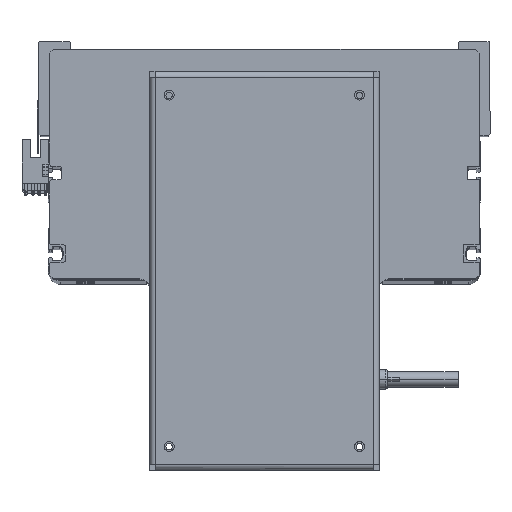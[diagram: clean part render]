
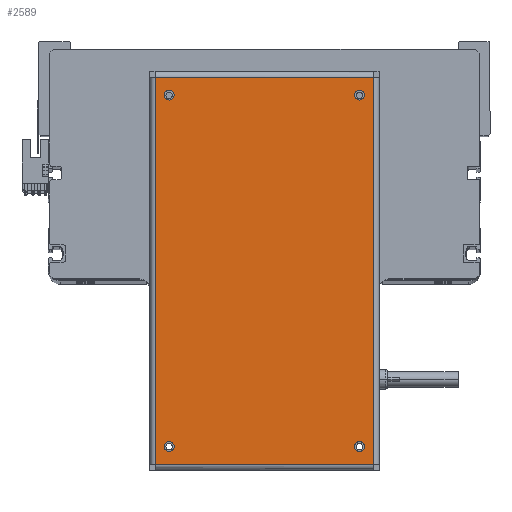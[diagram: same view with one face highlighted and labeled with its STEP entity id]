
A CAD part, top view. The second image highlights one B-rep face of the part: STEP entity #2589.
In plain terms, the highlighted planar face has unit normal (0, 0, 1).
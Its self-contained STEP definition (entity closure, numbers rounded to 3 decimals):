
#248 = VERTEX_POINT ( 'NONE', #31755 ) ;
#475 = AXIS2_PLACEMENT_3D ( 'NONE', #38841, #23039, #32424 ) ;
#528 = VECTOR ( 'NONE', #29941, 1000. ) ;
#704 = FACE_BOUND ( 'NONE', #15839, .T. ) ;
#811 = CARTESIAN_POINT ( 'NONE',  ( 87.05, -48.5, 0. ) ) ;
#1048 = CARTESIAN_POINT ( 'NONE',  ( -92.05, 48.5, 0. ) ) ;
#1131 = CARTESIAN_POINT ( 'NONE',  ( 98.65, 55.6, 0. ) ) ;
#2257 = DIRECTION ( 'NONE',  ( 1., 0., 0. ) ) ;
#2276 = ORIENTED_EDGE ( 'NONE', *, *, #26722, .F. ) ;
#2589 = ADVANCED_FACE ( 'NONE', ( #7107, #39088, #704, #39548, #38088 ), #16355, .F. ) ;
#2787 = ORIENTED_EDGE ( 'NONE', *, *, #3745, .F. ) ;
#3745 = EDGE_CURVE ( 'NONE', #8753, #15248, #4021, .T. ) ;
#3861 = EDGE_CURVE ( 'NONE', #37057, #39970, #6980, .T. ) ;
#4021 = CIRCLE ( 'NONE', #27797, 2.5 ) ;
#4349 = EDGE_CURVE ( 'NONE', #15248, #8753, #10420, .T. ) ;
#4423 = VERTEX_POINT ( 'NONE', #29909 ) ;
#6731 = CARTESIAN_POINT ( 'NONE',  ( 98.75, 58.5, 0. ) ) ;
#6980 = LINE ( 'NONE', #33615, #20293 ) ;
#7107 = FACE_BOUND ( 'NONE', #35927, .T. ) ;
#7727 = DIRECTION ( 'NONE',  ( 0., 0., 1. ) ) ;
#8172 = CARTESIAN_POINT ( 'NONE',  ( -98.75, -55.6, 0. ) ) ;
#8293 = CARTESIAN_POINT ( 'NONE',  ( 87.05, 48.5, 0. ) ) ;
#8668 = EDGE_CURVE ( 'NONE', #40299, #37057, #25243, .T. ) ;
#8753 = VERTEX_POINT ( 'NONE', #30254 ) ;
#8966 = VECTOR ( 'NONE', #16680, 1000. ) ;
#9405 = EDGE_CURVE ( 'NONE', #14177, #40299, #12921, .T. ) ;
#9712 = ORIENTED_EDGE ( 'NONE', *, *, #9405, .T. ) ;
#10401 = EDGE_CURVE ( 'NONE', #4423, #27236, #28659, .T. ) ;
#10420 = CIRCLE ( 'NONE', #11260, 2.5 ) ;
#10448 = CIRCLE ( 'NONE', #35080, 2.5 ) ;
#10810 = CARTESIAN_POINT ( 'NONE',  ( 98.65, -55.6, 0. ) ) ;
#10924 = CARTESIAN_POINT ( 'NONE',  ( 89.55, -48.5, 0. ) ) ;
#11013 = ORIENTED_EDGE ( 'NONE', *, *, #40311, .F. ) ;
#11260 = AXIS2_PLACEMENT_3D ( 'NONE', #10924, #32908, #17217 ) ;
#12921 = LINE ( 'NONE', #10810, #8966 ) ;
#12943 = DIRECTION ( 'NONE',  ( -1., 0., 0. ) ) ;
#14177 = VERTEX_POINT ( 'NONE', #32199 ) ;
#14516 = DIRECTION ( 'NONE',  ( 0., -1., 0. ) ) ;
#15062 = CARTESIAN_POINT ( 'NONE',  ( -87.05, -48.5, 0. ) ) ;
#15114 = EDGE_CURVE ( 'NONE', #23130, #248, #40621, .T. ) ;
#15248 = VERTEX_POINT ( 'NONE', #811 ) ;
#15839 = EDGE_LOOP ( 'NONE', ( #2787, #38852 ) ) ;
#15918 = AXIS2_PLACEMENT_3D ( 'NONE', #6731, #22681, #12943 ) ;
#16355 = PLANE ( 'NONE',  #15918 ) ;
#16680 = DIRECTION ( 'NONE',  ( 0., 1., 0. ) ) ;
#16772 = LINE ( 'NONE', #8172, #528 ) ;
#16854 = CARTESIAN_POINT ( 'NONE',  ( 89.55, -48.5, 0. ) ) ;
#17103 = EDGE_LOOP ( 'NONE', ( #19700, #31162, #9712, #32641 ) ) ;
#17217 = DIRECTION ( 'NONE',  ( 1., 0., 0. ) ) ;
#17284 = ORIENTED_EDGE ( 'NONE', *, *, #26741, .F. ) ;
#17378 = ORIENTED_EDGE ( 'NONE', *, *, #10401, .F. ) ;
#17668 = EDGE_CURVE ( 'NONE', #18015, #31505, #10448, .T. ) ;
#17932 = CARTESIAN_POINT ( 'NONE',  ( -89.55, -48.5, 0. ) ) ;
#18015 = VERTEX_POINT ( 'NONE', #15062 ) ;
#18601 = ORIENTED_EDGE ( 'NONE', *, *, #17668, .F. ) ;
#19136 = CIRCLE ( 'NONE', #32308, 2.5 ) ;
#19700 = ORIENTED_EDGE ( 'NONE', *, *, #3861, .T. ) ;
#20031 = DIRECTION ( 'NONE',  ( 1., 0., 0. ) ) ;
#20063 = CARTESIAN_POINT ( 'NONE',  ( 98.75, 55.6, 0. ) ) ;
#20293 = VECTOR ( 'NONE', #14516, 1000. ) ;
#20315 = DIRECTION ( 'NONE',  ( 0., 0., 1. ) ) ;
#21126 = DIRECTION ( 'NONE',  ( 0., 0., 1. ) ) ;
#21241 = DIRECTION ( 'NONE',  ( 1., 0., 0. ) ) ;
#22050 = CIRCLE ( 'NONE', #29471, 2.5 ) ;
#22639 = CARTESIAN_POINT ( 'NONE',  ( 89.55, 48.5, 0. ) ) ;
#22681 = DIRECTION ( 'NONE',  ( 0., 0., -1. ) ) ;
#23039 = DIRECTION ( 'NONE',  ( 0., 0., 1. ) ) ;
#23044 = CIRCLE ( 'NONE', #475, 2.5 ) ;
#23130 = VERTEX_POINT ( 'NONE', #8293 ) ;
#23265 = VECTOR ( 'NONE', #39150, 1000. ) ;
#23495 = EDGE_LOOP ( 'NONE', ( #17284, #37283 ) ) ;
#25243 = LINE ( 'NONE', #20063, #23265 ) ;
#25575 = EDGE_CURVE ( 'NONE', #39970, #14177, #16772, .T. ) ;
#25938 = CARTESIAN_POINT ( 'NONE',  ( -98.65, 55.6, 0. ) ) ;
#26549 = CARTESIAN_POINT ( 'NONE',  ( -89.55, 48.5, 0. ) ) ;
#26722 = EDGE_CURVE ( 'NONE', #31505, #18015, #23044, .T. ) ;
#26741 = EDGE_CURVE ( 'NONE', #248, #23130, #22050, .T. ) ;
#27236 = VERTEX_POINT ( 'NONE', #1048 ) ;
#27797 = AXIS2_PLACEMENT_3D ( 'NONE', #16854, #20315, #32431 ) ;
#28659 = CIRCLE ( 'NONE', #33571, 2.5 ) ;
#29147 = DIRECTION ( 'NONE',  ( 0., 0., 1. ) ) ;
#29471 = AXIS2_PLACEMENT_3D ( 'NONE', #22639, #38564, #20031 ) ;
#29506 = AXIS2_PLACEMENT_3D ( 'NONE', #40052, #39777, #21241 ) ;
#29748 = DIRECTION ( 'NONE',  ( 1., 0., 0. ) ) ;
#29909 = CARTESIAN_POINT ( 'NONE',  ( -87.05, 48.5, 0. ) ) ;
#29941 = DIRECTION ( 'NONE',  ( 1., 0., 0. ) ) ;
#30254 = CARTESIAN_POINT ( 'NONE',  ( 92.05, -48.5, 0. ) ) ;
#30841 = EDGE_LOOP ( 'NONE', ( #17378, #11013 ) ) ;
#31162 = ORIENTED_EDGE ( 'NONE', *, *, #25575, .T. ) ;
#31505 = VERTEX_POINT ( 'NONE', #36044 ) ;
#31755 = CARTESIAN_POINT ( 'NONE',  ( 92.05, 48.5, 0. ) ) ;
#32036 = DIRECTION ( 'NONE',  ( 1., 0., 0. ) ) ;
#32199 = CARTESIAN_POINT ( 'NONE',  ( 98.65, -55.6, 0. ) ) ;
#32308 = AXIS2_PLACEMENT_3D ( 'NONE', #26549, #7727, #29748 ) ;
#32424 = DIRECTION ( 'NONE',  ( 1., 0., 0. ) ) ;
#32431 = DIRECTION ( 'NONE',  ( 1., 0., 0. ) ) ;
#32641 = ORIENTED_EDGE ( 'NONE', *, *, #8668, .T. ) ;
#32908 = DIRECTION ( 'NONE',  ( 0., 0., 1. ) ) ;
#33571 = AXIS2_PLACEMENT_3D ( 'NONE', #38042, #29147, #32036 ) ;
#33615 = CARTESIAN_POINT ( 'NONE',  ( -98.65, 55.6, 0. ) ) ;
#35080 = AXIS2_PLACEMENT_3D ( 'NONE', #17932, #21126, #2257 ) ;
#35927 = EDGE_LOOP ( 'NONE', ( #18601, #2276 ) ) ;
#36044 = CARTESIAN_POINT ( 'NONE',  ( -92.05, -48.5, 0. ) ) ;
#37057 = VERTEX_POINT ( 'NONE', #25938 ) ;
#37283 = ORIENTED_EDGE ( 'NONE', *, *, #15114, .F. ) ;
#38042 = CARTESIAN_POINT ( 'NONE',  ( -89.55, 48.5, 0. ) ) ;
#38088 = FACE_OUTER_BOUND ( 'NONE', #17103, .T. ) ;
#38564 = DIRECTION ( 'NONE',  ( 0., 0., 1. ) ) ;
#38841 = CARTESIAN_POINT ( 'NONE',  ( -89.55, -48.5, 0. ) ) ;
#38852 = ORIENTED_EDGE ( 'NONE', *, *, #4349, .F. ) ;
#39088 = FACE_BOUND ( 'NONE', #30841, .T. ) ;
#39150 = DIRECTION ( 'NONE',  ( -1., 0., 0. ) ) ;
#39316 = CARTESIAN_POINT ( 'NONE',  ( -98.65, -55.6, 0. ) ) ;
#39548 = FACE_BOUND ( 'NONE', #23495, .T. ) ;
#39777 = DIRECTION ( 'NONE',  ( 0., 0., 1. ) ) ;
#39970 = VERTEX_POINT ( 'NONE', #39316 ) ;
#40052 = CARTESIAN_POINT ( 'NONE',  ( 89.55, 48.5, 0. ) ) ;
#40299 = VERTEX_POINT ( 'NONE', #1131 ) ;
#40311 = EDGE_CURVE ( 'NONE', #27236, #4423, #19136, .T. ) ;
#40621 = CIRCLE ( 'NONE', #29506, 2.5 ) ;
